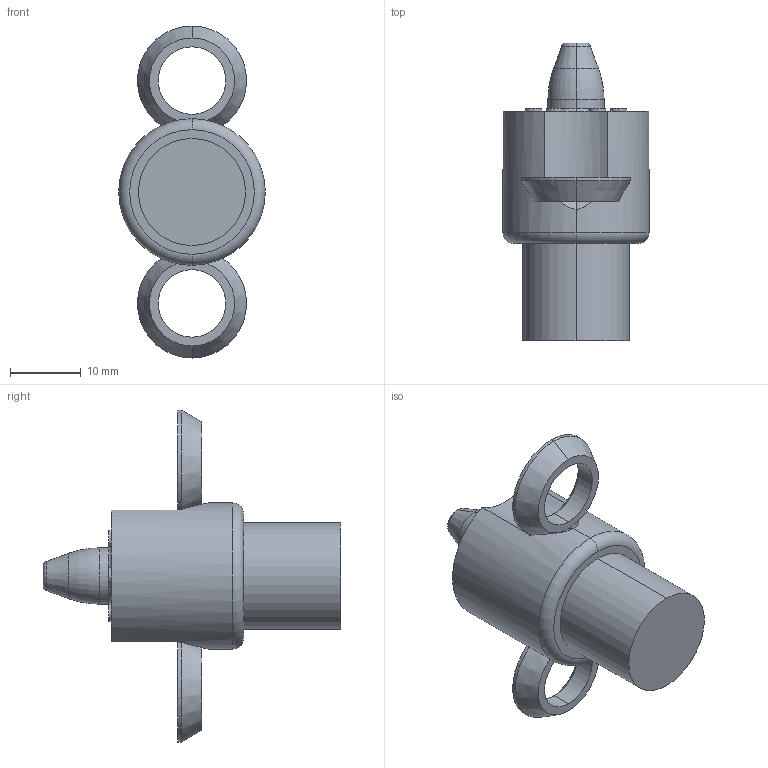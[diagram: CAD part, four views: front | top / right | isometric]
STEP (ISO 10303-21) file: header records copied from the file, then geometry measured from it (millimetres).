
FILE_DESCRIPTION (( 'STEP AP214' ), '1' );
FILE_NAME ('PA-.3125-.050-P-F2.stp', '2020-05-01T17:41:50', ( '' ), ( '' ), 'SwSTEP 2.0', 'SolidWorks 2017', '' );
FILE_SCHEMA (( 'AUTOMOTIVE_DESIGN' ));
Length unit declared in the file: inch
Products named in the file (1): PA-.3125-.050-P-F2
Bounding box: 20.64 x 41.97 x 46.84 mm (x, y, z)
Volume: 9245.1 mm3; surface area: 3487.7 mm2
Topology: 3 solids, 3 shells, 67 faces, 138 edges, 85 vertices
Faces by surface type: cylinder 28, cone 14, plane 14, torus 11
Entity records: 1914 total; most frequent: CARTESIAN_POINT 359, DIRECTION 354, ORIENTED_EDGE 276, AXIS2_PLACEMENT_3D 156, EDGE_CURVE 138, CIRCLE 88, VERTEX_POINT 85, EDGE_LOOP 79
